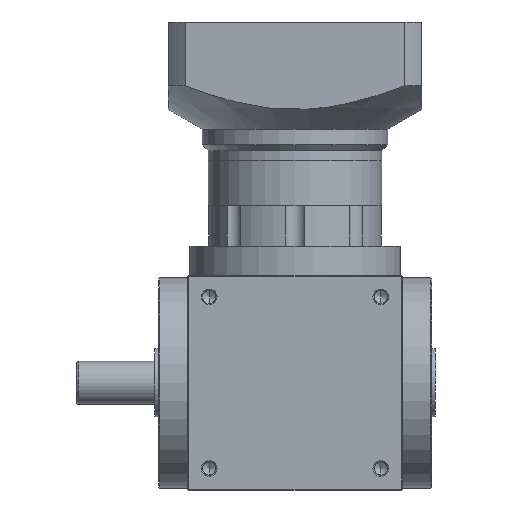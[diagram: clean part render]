
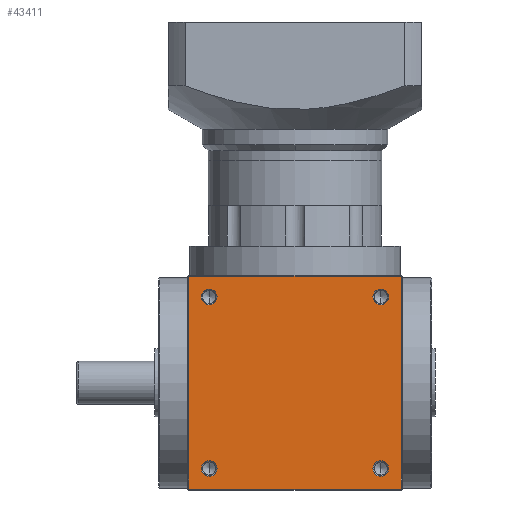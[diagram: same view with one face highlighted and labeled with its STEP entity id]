
A CAD part, front view. The second image highlights one B-rep face of the part: STEP entity #43411.
In plain terms, the highlighted planar face has unit normal (0, -1, 0).
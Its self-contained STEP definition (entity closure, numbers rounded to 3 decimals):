
#815 = DIRECTION ( 'NONE',  ( 1., 0., 0. ) ) ;
#953 = CIRCLE ( 'NONE', #37267, 4.025 ) ;
#1599 = ORIENTED_EDGE ( 'NONE', *, *, #2034, .F. ) ;
#1628 = DIRECTION ( 'NONE',  ( 1., 0., 0. ) ) ;
#2034 = EDGE_CURVE ( 'NONE', #37181, #9015, #45576, .T. ) ;
#3026 = EDGE_LOOP ( 'NONE', ( #5476, #49239 ) ) ;
#3349 = CIRCLE ( 'NONE', #26117, 4.025 ) ;
#4415 = CARTESIAN_POINT ( 'NONE',  ( 44., -55., 99. ) ) ;
#5187 = CARTESIAN_POINT ( 'NONE',  ( 48.025, -55., 11. ) ) ;
#5267 = CARTESIAN_POINT ( 'NONE',  ( 54.5, -55., 110. ) ) ;
#5476 = ORIENTED_EDGE ( 'NONE', *, *, #49948, .F. ) ;
#5574 = CARTESIAN_POINT ( 'NONE',  ( 44., -55., 11. ) ) ;
#5666 = CARTESIAN_POINT ( 'NONE',  ( -55., -55., 110. ) ) ;
#5690 = FACE_BOUND ( 'NONE', #42348, .T. ) ;
#6240 = CIRCLE ( 'NONE', #43899, 4.025 ) ;
#6538 = DIRECTION ( 'NONE',  ( 0., 0., -1. ) ) ;
#6699 = CIRCLE ( 'NONE', #23098, 4.025 ) ;
#6976 = CARTESIAN_POINT ( 'NONE',  ( -54.5, -55., 109.5 ) ) ;
#8719 = DIRECTION ( 'NONE',  ( 1., 0., 0. ) ) ;
#9015 = VERTEX_POINT ( 'NONE', #52335 ) ;
#9433 = CARTESIAN_POINT ( 'NONE',  ( -44., -55., 11. ) ) ;
#9597 = EDGE_CURVE ( 'NONE', #9015, #44312, #11116, .T. ) ;
#9861 = DIRECTION ( 'NONE',  ( 1., 0., 0. ) ) ;
#9907 = VECTOR ( 'NONE', #47976, 1000. ) ;
#10106 = ORIENTED_EDGE ( 'NONE', *, *, #9597, .F. ) ;
#10499 = CIRCLE ( 'NONE', #28321, 4.025 ) ;
#10743 = DIRECTION ( 'NONE',  ( 0., -1., 0. ) ) ;
#11116 = LINE ( 'NONE', #38987, #55266 ) ;
#11674 = EDGE_CURVE ( 'NONE', #35452, #45034, #953, .T. ) ;
#12508 = ORIENTED_EDGE ( 'NONE', *, *, #21670, .F. ) ;
#12638 = VERTEX_POINT ( 'NONE', #6976 ) ;
#12701 = CARTESIAN_POINT ( 'NONE',  ( -39.975, -55., 99. ) ) ;
#13148 = CARTESIAN_POINT ( 'NONE',  ( -44., -55., 11. ) ) ;
#13452 = EDGE_CURVE ( 'NONE', #12638, #37181, #20849, .T. ) ;
#13664 = DIRECTION ( 'NONE',  ( 1., 0., 0. ) ) ;
#15120 = CARTESIAN_POINT ( 'NONE',  ( -44., -55., 99. ) ) ;
#16022 = AXIS2_PLACEMENT_3D ( 'NONE', #52780, #27140, #1628 ) ;
#16089 = ORIENTED_EDGE ( 'NONE', *, *, #32749, .F. ) ;
#17050 = FACE_BOUND ( 'NONE', #44489, .T. ) ;
#17247 = VERTEX_POINT ( 'NONE', #5187 ) ;
#17339 = CARTESIAN_POINT ( 'NONE',  ( 48.025, -55., 99. ) ) ;
#17382 = EDGE_CURVE ( 'NONE', #45034, #35452, #27673, .T. ) ;
#17498 = DIRECTION ( 'NONE',  ( 1., 0., 0. ) ) ;
#18540 = PLANE ( 'NONE',  #52880 ) ;
#19434 = DIRECTION ( 'NONE',  ( 1., 0., 0. ) ) ;
#20318 = CARTESIAN_POINT ( 'NONE',  ( -48.025, -55., 99. ) ) ;
#20369 = CARTESIAN_POINT ( 'NONE',  ( -48.025, -55., 11. ) ) ;
#20849 = LINE ( 'NONE', #45370, #42240 ) ;
#21565 = VERTEX_POINT ( 'NONE', #17339 ) ;
#21670 = EDGE_CURVE ( 'NONE', #29533, #17247, #6699, .T. ) ;
#22381 = CARTESIAN_POINT ( 'NONE',  ( -54.5, -55., 110. ) ) ;
#22591 = DIRECTION ( 'NONE',  ( 0., 1., 0. ) ) ;
#23097 = EDGE_CURVE ( 'NONE', #45588, #42102, #31867, .T. ) ;
#23098 = AXIS2_PLACEMENT_3D ( 'NONE', #5574, #35364, #9861 ) ;
#23577 = CIRCLE ( 'NONE', #16022, 4.025 ) ;
#25191 = CARTESIAN_POINT ( 'NONE',  ( 39.975, -55., 11. ) ) ;
#25653 = VERTEX_POINT ( 'NONE', #51811 ) ;
#26117 = AXIS2_PLACEMENT_3D ( 'NONE', #51922, #26316, #815 ) ;
#26284 = EDGE_CURVE ( 'NONE', #25653, #21565, #3349, .T. ) ;
#26316 = DIRECTION ( 'NONE',  ( 0., -1., 0. ) ) ;
#26836 = VECTOR ( 'NONE', #6538, 1000. ) ;
#26987 = FACE_BOUND ( 'NONE', #3026, .T. ) ;
#27053 = DIRECTION ( 'NONE',  ( 0., 0., 1. ) ) ;
#27140 = DIRECTION ( 'NONE',  ( 0., -1., 0. ) ) ;
#27673 = CIRCLE ( 'NONE', #37081, 4.025 ) ;
#27742 = EDGE_CURVE ( 'NONE', #44312, #12638, #45278, .T. ) ;
#28229 = CARTESIAN_POINT ( 'NONE',  ( 54.5, -55., 109.5 ) ) ;
#28321 = AXIS2_PLACEMENT_3D ( 'NONE', #4415, #34238, #8719 ) ;
#29533 = VERTEX_POINT ( 'NONE', #25191 ) ;
#31867 = CIRCLE ( 'NONE', #47511, 4.025 ) ;
#32749 = EDGE_CURVE ( 'NONE', #17247, #29533, #23577, .T. ) ;
#34238 = DIRECTION ( 'NONE',  ( 0., -1., 0. ) ) ;
#35364 = DIRECTION ( 'NONE',  ( 0., -1., 0. ) ) ;
#35452 = VERTEX_POINT ( 'NONE', #12701 ) ;
#36287 = CARTESIAN_POINT ( 'NONE',  ( -44., -55., 99. ) ) ;
#36383 = ORIENTED_EDGE ( 'NONE', *, *, #27742, .F. ) ;
#37081 = AXIS2_PLACEMENT_3D ( 'NONE', #36287, #10743, #40603 ) ;
#37181 = VERTEX_POINT ( 'NONE', #28229 ) ;
#37267 = AXIS2_PLACEMENT_3D ( 'NONE', #15120, #44992, #19434 ) ;
#38382 = FACE_BOUND ( 'NONE', #53606, .T. ) ;
#38513 = DIRECTION ( 'NONE',  ( -1., 0., 0. ) ) ;
#38987 = CARTESIAN_POINT ( 'NONE',  ( -55., -55., 0.5 ) ) ;
#39071 = CARTESIAN_POINT ( 'NONE',  ( -39.975, -55., 11. ) ) ;
#39264 = DIRECTION ( 'NONE',  ( 0., -1., 0. ) ) ;
#40603 = DIRECTION ( 'NONE',  ( 1., 0., 0. ) ) ;
#42102 = VERTEX_POINT ( 'NONE', #20369 ) ;
#42240 = VECTOR ( 'NONE', #53991, 1000. ) ;
#42347 = CARTESIAN_POINT ( 'NONE',  ( -54.5, -55., 0.5 ) ) ;
#42348 = EDGE_LOOP ( 'NONE', ( #16089, #12508 ) ) ;
#43046 = DIRECTION ( 'NONE',  ( 0., -1., 0. ) ) ;
#43268 = ORIENTED_EDGE ( 'NONE', *, *, #11674, .F. ) ;
#43411 = ADVANCED_FACE ( 'NONE', ( #5690, #26987, #17050, #38382, #49727 ), #18540, .F. ) ;
#43899 = AXIS2_PLACEMENT_3D ( 'NONE', #13148, #43046, #17498 ) ;
#44312 = VERTEX_POINT ( 'NONE', #42347 ) ;
#44489 = EDGE_LOOP ( 'NONE', ( #43268, #44633 ) ) ;
#44633 = ORIENTED_EDGE ( 'NONE', *, *, #17382, .F. ) ;
#44992 = DIRECTION ( 'NONE',  ( 0., -1., 0. ) ) ;
#45034 = VERTEX_POINT ( 'NONE', #20318 ) ;
#45278 = LINE ( 'NONE', #22381, #9907 ) ;
#45370 = CARTESIAN_POINT ( 'NONE',  ( -55., -55., 109.5 ) ) ;
#45576 = LINE ( 'NONE', #5267, #26836 ) ;
#45588 = VERTEX_POINT ( 'NONE', #39071 ) ;
#47511 = AXIS2_PLACEMENT_3D ( 'NONE', #9433, #39264, #13664 ) ;
#47976 = DIRECTION ( 'NONE',  ( 0., 0., 1. ) ) ;
#49062 = ORIENTED_EDGE ( 'NONE', *, *, #54597, .F. ) ;
#49239 = ORIENTED_EDGE ( 'NONE', *, *, #26284, .F. ) ;
#49727 = FACE_OUTER_BOUND ( 'NONE', #52869, .T. ) ;
#49948 = EDGE_CURVE ( 'NONE', #21565, #25653, #10499, .T. ) ;
#51624 = ORIENTED_EDGE ( 'NONE', *, *, #23097, .F. ) ;
#51811 = CARTESIAN_POINT ( 'NONE',  ( 39.975, -55., 99. ) ) ;
#51922 = CARTESIAN_POINT ( 'NONE',  ( 44., -55., 99. ) ) ;
#52335 = CARTESIAN_POINT ( 'NONE',  ( 54.5, -55., 0.5 ) ) ;
#52778 = ORIENTED_EDGE ( 'NONE', *, *, #13452, .F. ) ;
#52780 = CARTESIAN_POINT ( 'NONE',  ( 44., -55., 11. ) ) ;
#52869 = EDGE_LOOP ( 'NONE', ( #52778, #36383, #10106, #1599 ) ) ;
#52880 = AXIS2_PLACEMENT_3D ( 'NONE', #5666, #22591, #27053 ) ;
#53606 = EDGE_LOOP ( 'NONE', ( #51624, #49062 ) ) ;
#53991 = DIRECTION ( 'NONE',  ( 1., 0., 0. ) ) ;
#54597 = EDGE_CURVE ( 'NONE', #42102, #45588, #6240, .T. ) ;
#55266 = VECTOR ( 'NONE', #38513, 1000. ) ;
